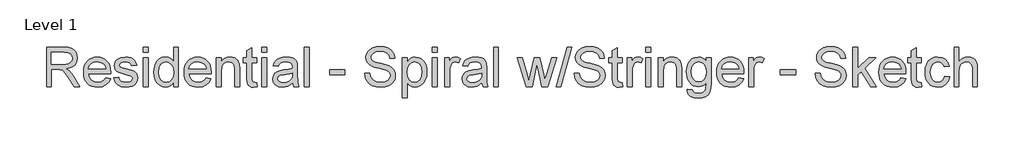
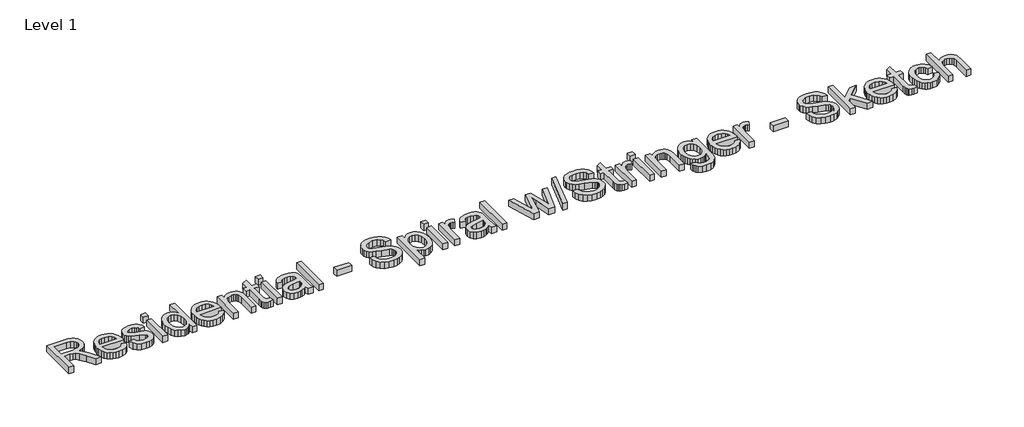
# One storey, part 9 of 26: 1 proxy.
"""IFC4 building model written with IfcOpenShell, lengths in millimetres."""

from ifc_helpers import new_model, si_unit, origin, origin_with_axes, place, context, project, spatial, polyline, outline, extrude, element, save

model = new_model("IFC4")

# Units and contexts
model_context = context("Model", 3, world=origin())
ifc_project = project(units=[si_unit("LENGTHUNIT", "METRE", prefix="MILLI")], contexts=[model_context])

# Site, building, storey
site = spatial("IfcSite", under=ifc_project)
building = spatial("IfcBuilding", under=site)
storey = spatial("IfcBuildingStorey", under=building, Name="Level 1", Elevation=0.0)

# Proxy
placement = place(None, origin())
element("IfcBuildingElementProxy", 1, Name="12\" Arial", ObjectType="12\" Arial", at=placement, inside=storey, context=model_context, shape_type="SweptSolid", body=[
    extrude(outline(polyline([(-4715.4981187, -14907.1232123), (-4715.4981187, -14607.012443), (-4586.1779264, -14607.012443), (-4551.420835, -14609.0365055), (-4526.1337918, -14615.108693), (-4507.6516283, -14626.3188854), (-4493.3091764, -14643.7569623), (-4484.1047293, -14665.380544), (-4481.0365802, -14689.1472507), (-4486.1196331, -14718.7113854), (-4501.3687918, -14743.219943), (-4512.9201439, -14753.2074551), (-4527.2419889, -14761.1892219), (-4564.1971571, -14771.13552), (-4542.875811, -14787.1814815), (-4512.4690802, -14825.7943661), (-4462.4261956, -14907.1232123), (-4506.0213879, -14907.1232123), (-4545.0738879, -14844.9176354), (-4573.2825418, -14803.7403277), (-4593.1018687, -14784.2873469), (-4610.9429264, -14777.1435969), (-4632.7038879, -14775.8247507), (-4677.9842725, -14775.8247507), (-4677.9842725, -14907.1232123), (-4715.4981187, -14907.1232123)]), holes=[polyline([(-4677.9842725, -14738.3109046), (-4594.0177341, -14738.3109046), (-4569.9029985, -14736.9828998), (-4551.1918687, -14732.9988854), (-4537.1058591, -14726.0932604), (-4526.8664841, -14716.0004238), (-4520.6294408, -14703.7919382), (-4518.5504264, -14690.5393661), (-4522.5161235, -14672.2403757), (-4534.4132148, -14657.494943), (-4554.8828062, -14647.7684527), (-4584.5660033, -14644.5262892), (-4677.9842725, -14644.5262892), (-4677.9842725, -14738.3109046)])]), origin_with_axes(), (0.0, 0.0, 1.0), 50.8),
    extrude(outline(polyline([(-4265.7715802, -14841.4739815), (-4228.9904264, -14846.1632123), (-4242.2429985, -14873.8772988), (-4263.3903302, -14894.5941738), (-4291.9561716, -14907.5078757), (-4327.4642725, -14911.812443), (-4350.7409913, -14909.955526), (-4371.4807629, -14904.3847748), (-4389.6835874, -14895.1001894), (-4405.3494648, -14882.10177), (-4417.9471932, -14865.7512832), (-4426.9455706, -14846.4104959), (-4432.344597, -14824.0794082), (-4434.1442725, -14798.75802), (-4432.3262797, -14772.5780079), (-4426.8723014, -14749.5027796), (-4417.7823374, -14729.5323349), (-4405.0563879, -14712.6666738), (-4389.4317244, -14699.2675632), (-4371.6456187, -14689.69677), (-4351.6980706, -14683.954294), (-4329.5890802, -14682.0401354), (-4308.1921752, -14683.9497147), (-4288.8422293, -14689.6784527), (-4271.5392425, -14699.2263493), (-4256.2832148, -14712.5934046), (-4243.8297353, -14729.422431), (-4234.9343927, -14749.3562411), (-4229.5971872, -14772.3948349), (-4227.8181187, -14798.5382123), (-4228.0379264, -14808.6493661), (-4396.6304264, -14808.6493661), (-4390.1369408, -14836.7297988), (-4375.0526379, -14857.3734046), (-4353.2825177, -14870.0672988), (-4326.7315802, -14874.2985969), (-4306.7657148, -14872.338645), (-4289.9504264, -14866.4587892), (-4276.2857148, -14856.2926834), (-4265.7715802, -14841.4739815)]), holes=[polyline([(-4396.6304264, -14771.13552), (-4265.3319648, -14771.13552), (-4270.4058591, -14751.316193), (-4280.3521571, -14737.1385969), (-4302.2230225, -14723.9501354), (-4329.7356187, -14719.5539815), (-4355.0226619, -14723.0617459), (-4375.9318687, -14733.5850392), (-4390.4666523, -14749.9881882), (-4396.6304264, -14771.13552)])]), origin_with_axes(), (0.0, 0.0, 1.0), 50.8),
    extrude(outline(polyline([(-4204.3719648, -14841.4739815), (-4166.8581187, -14836.7847507), (-4160.9416283, -14852.8307123), (-4149.493311, -14864.6270584), (-4132.4398975, -14871.8807123), (-4109.7081187, -14874.2985969), (-4087.2510994, -14872.0822027), (-4071.4615802, -14865.43302), (-4062.1197533, -14855.7981161), (-4059.005811, -14844.6245584), (-4062.1380706, -14835.0629238), (-4071.5348494, -14827.7726354), (-4110.1477341, -14817.0753277), (-4166.638311, -14798.7213854), (-4180.9349696, -14789.4986209), (-4191.2934071, -14777.2901354), (-4197.5854023, -14762.8744142), (-4199.6827341, -14747.029943), (-4197.9975418, -14732.4951594), (-4192.9419648, -14719.0777315), (-4184.973936, -14707.3088613), (-4174.5513879, -14697.7197507), (-4150.7022533, -14686.6194623), (-4118.4271571, -14682.0401354), (-4094.010186, -14683.8810248), (-4072.7804264, -14689.403693), (-4055.7086956, -14698.0677796), (-4043.765811, -14709.3329238), (-4035.8527341, -14724.0325632), (-4030.8704264, -14743.0001354), (-4068.3842725, -14747.6893661), (-4073.1192966, -14735.8838613), (-4082.4885994, -14726.9908084), (-4096.5837677, -14721.4131882), (-4115.4963879, -14719.5539815), (-4137.0375418, -14721.3307604), (-4151.398311, -14726.6610969), (-4159.4762437, -14734.3543661), (-4162.1688879, -14743.219943), (-4157.6994648, -14754.1370584), (-4143.7050418, -14762.4164815), (-4111.393311, -14770.4028277), (-4056.3314841, -14788.0607123), (-4041.7875418, -14796.5049911), (-4030.7605225, -14808.0632123), (-4023.8091043, -14822.7720104), (-4021.4919648, -14840.66802), (-4024.212085, -14859.1685007), (-4032.3724456, -14876.569943), (-4045.6616523, -14891.5077075), (-4063.768311, -14902.6171546), (-4085.6391764, -14909.5136209), (-4110.2210033, -14911.812443), (-4148.0462437, -14907.3796546), (-4175.6504264, -14894.0812892), (-4194.0776379, -14872.0638854), (-4204.3719648, -14841.4739815)])), origin_with_axes(), (0.0, 0.0, 1.0), 50.8),
    extrude(outline(polyline([(-3979.2888879, -14907.1232123), (-3979.2888879, -14686.7293661), (-3941.7750418, -14686.7293661), (-3941.7750418, -14907.1232123), (-3979.2888879, -14907.1232123)])), origin_with_axes(), (0.0, 0.0, 1.0), 50.8),
    extrude(outline(polyline([(-3979.2888879, -14644.5262892), (-3979.2888879, -14607.012443), (-3941.7750418, -14607.012443), (-3941.7750418, -14644.5262892), (-3979.2888879, -14644.5262892)])), origin_with_axes(), (0.0, 0.0, 1.0), 50.8),
    extrude(outline(polyline([(-3749.5165802, -14907.1232123), (-3749.5165802, -14871.7341738), (-3760.7405105, -14889.2684166), (-3774.3365321, -14901.7928757), (-3790.3046451, -14909.3075512), (-3808.6448494, -14911.812443), (-3832.8969648, -14908.1856161), (-3855.0975418, -14897.3051354), (-3873.8910994, -14879.931169), (-3887.9221571, -14856.8238854), (-3896.6595129, -14828.9174671), (-3899.5719648, -14797.1460969), (-3896.8884793, -14765.7685488), (-3888.8380225, -14737.4316738), (-3875.4297533, -14713.747395), (-3856.6728302, -14696.3276354), (-3833.9868446, -14685.6120104), (-3808.7913879, -14682.0401354), (-3790.4374456, -14684.5953998), (-3774.208311, -14692.261193), (-3760.4520129, -14704.0117459), (-3749.5165802, -14718.8212892), (-3749.5165802, -14607.012443), (-3712.0027341, -14607.012443), (-3712.0027341, -14907.1232123), (-3749.5165802, -14907.1232123)]), holes=[polyline([(-3862.0581187, -14796.9995584), (-3857.8268206, -14830.9323709), (-3845.1329264, -14855.0654238), (-3826.6873975, -14869.4903036), (-3805.2011956, -14874.2985969), (-3783.7241523, -14869.7101113), (-3765.7457148, -14855.9446546), (-3753.5738639, -14832.7457844), (-3749.5165802, -14799.8570584), (-3753.6471331, -14763.9001834), (-3766.0387918, -14738.9703277), (-3784.4751619, -14724.408068), (-3806.7398494, -14719.5539815), (-3828.4458591, -14724.2157363), (-3846.2319648, -14738.2010007), (-3858.1015802, -14762.2241498), (-3862.0581187, -14796.9995584)])]), origin_with_axes(), (0.0, 0.0, 1.0), 50.8),
    extrude(outline(polyline([(-3501.4269648, -14841.4739815), (-3464.645811, -14846.1632123), (-3477.8983831, -14873.8772988), (-3499.0457148, -14894.5941738), (-3527.6115562, -14907.5078757), (-3563.1196571, -14911.812443), (-3586.3963759, -14909.955526), (-3607.1361475, -14904.3847748), (-3625.338972, -14895.1001894), (-3641.0048494, -14882.10177), (-3653.6025778, -14865.7512832), (-3662.6009552, -14846.4104959), (-3667.9999817, -14824.0794082), (-3669.7996571, -14798.75802), (-3667.9816643, -14772.5780079), (-3662.527686, -14749.5027796), (-3653.437722, -14729.5323349), (-3640.7117725, -14712.6666738), (-3625.0871091, -14699.2675632), (-3607.3010033, -14689.69677), (-3587.3534552, -14683.954294), (-3565.2444648, -14682.0401354), (-3543.8475598, -14683.9497147), (-3524.4976139, -14689.6784527), (-3507.1946271, -14699.2263493), (-3491.9385994, -14712.5934046), (-3479.4851199, -14729.422431), (-3470.5897773, -14749.3562411), (-3465.2525718, -14772.3948349), (-3463.4735033, -14798.5382123), (-3463.693311, -14808.6493661), (-3632.285811, -14808.6493661), (-3625.7923254, -14836.7297988), (-3610.7080225, -14857.3734046), (-3588.9379023, -14870.0672988), (-3562.3869648, -14874.2985969), (-3542.4210994, -14872.338645), (-3525.605811, -14866.4587892), (-3511.9410994, -14856.2926834), (-3501.4269648, -14841.4739815)]), holes=[polyline([(-3632.285811, -14771.13552), (-3500.9873494, -14771.13552), (-3506.0612437, -14751.316193), (-3516.0075418, -14737.1385969), (-3537.8784071, -14723.9501354), (-3565.3910033, -14719.5539815), (-3590.6780466, -14723.0617459), (-3611.5872533, -14733.5850392), (-3626.1220369, -14749.9881882), (-3632.285811, -14771.13552)])]), origin_with_axes(), (0.0, 0.0, 1.0), 50.8),
    extrude(outline(polyline([(-3425.9596571, -14907.1232123), (-3425.9596571, -14686.7293661), (-3388.445811, -14686.7293661), (-3388.445811, -14717.502443), (-3375.4130466, -14701.9876834), (-3359.7609071, -14690.9057123), (-3341.4893927, -14684.2565296), (-3320.5985033, -14682.0401354), (-3302.1071812, -14683.8260729), (-3285.1728302, -14689.1838854), (-3271.050186, -14697.4449911), (-3260.9939841, -14707.9408084), (-3249.7471571, -14735.5266738), (-3247.7688879, -14771.794943), (-3247.7688879, -14907.1232123), (-3285.2827341, -14907.1232123), (-3285.2827341, -14776.85052), (-3289.6056187, -14743.6595584), (-3295.5862196, -14733.7773709), (-3304.8822533, -14726.1115777), (-3316.7976619, -14721.1933805), (-3330.6363879, -14719.5539815), (-3352.6079985, -14723.2357604), (-3371.3374456, -14734.2810969), (-3378.8223555, -14743.2977916), (-3384.1687196, -14755.6207604), (-3388.445811, -14790.18552), (-3388.445811, -14907.1232123), (-3425.9596571, -14907.1232123)])), origin_with_axes(), (0.0, 0.0, 1.0), 50.8),
    extrude(outline(polyline([(-3116.4704264, -14875.8372507), (-3111.7811956, -14908.2222507), (-3139.843311, -14911.812443), (-3157.8492244, -14910.2554719), (-3171.275811, -14905.5845584), (-3180.7641764, -14898.3858565), (-3186.9554264, -14889.24552), (-3190.3624456, -14873.5475873), (-3191.4981187, -14846.6760969), (-3191.4981187, -14724.2432123), (-3219.6335033, -14724.2432123), (-3219.6335033, -14686.7293661), (-3191.4981187, -14686.7293661), (-3191.4981187, -14633.1695584), (-3153.9842725, -14611.11552), (-3153.9842725, -14686.7293661), (-3116.4704264, -14686.7293661), (-3116.4704264, -14724.2432123), (-3153.9842725, -14724.2432123), (-3153.9842725, -14845.5770584), (-3152.0060033, -14864.9201354), (-3145.5949456, -14871.7708084), (-3132.8094648, -14874.2985969), (-3116.4704264, -14875.8372507)])), origin_with_axes(), (0.0, 0.0, 1.0), 50.8),
    extrude(outline(polyline([(-3078.9565802, -14907.1232123), (-3078.9565802, -14686.7293661), (-3041.4427341, -14686.7293661), (-3041.4427341, -14907.1232123), (-3078.9565802, -14907.1232123)])), origin_with_axes(), (0.0, 0.0, 1.0), 50.8),
    extrude(outline(polyline([(-3078.9565802, -14644.5262892), (-3078.9565802, -14607.012443), (-3041.4427341, -14607.012443), (-3041.4427341, -14644.5262892), (-3078.9565802, -14644.5262892)])), origin_with_axes(), (0.0, 0.0, 1.0), 50.8),
    extrude(outline(polyline([(-2844.4950418, -14878.9878277), (-2862.4185273, -14894.3560488), (-2880.8732148, -14904.4122507), (-2900.2804023, -14909.962395), (-2921.0613879, -14911.812443), (-2952.41146, -14907.3613373), (-2975.537061, -14894.00802), (-2989.797085, -14873.7307604), (-2994.5504264, -14848.5078277), (-2992.7553302, -14832.9564334), (-2987.3700418, -14818.8337892), (-2979.0631427, -14806.7443661), (-2968.5032148, -14797.2926354), (-2942.2361956, -14784.9834046), (-2909.7779264, -14779.3416738), (-2871.4214841, -14773.4068661), (-2844.7148494, -14766.4462892), (-2844.4950418, -14758.0935969), (-2847.0777821, -14741.3515777), (-2854.8260033, -14730.3978277), (-2872.1541764, -14722.264943), (-2896.2963879, -14719.5539815), (-2918.6435033, -14721.3582363), (-2934.2498494, -14726.7710007), (-2944.8922052, -14736.7814094), (-2952.3473494, -14752.3785969), (-2989.8611956, -14747.6893661), (-2983.3493927, -14727.1739815), (-2973.632061, -14711.0547507), (-2959.8024937, -14698.7272027), (-2940.9539841, -14689.5868661), (-2917.9016523, -14683.926818), (-2891.4606187, -14682.0401354), (-2866.1003062, -14683.7070104), (-2845.997061, -14688.7076354), (-2830.8394889, -14696.2268902), (-2820.3161956, -14705.4496546), (-2813.3373014, -14716.8521786), (-2808.8129264, -14730.9107123), (-2806.9811956, -14763.7353277), (-2806.9811956, -14810.4078277), (-2805.0761956, -14875.5808084), (-2797.6027341, -14907.1232123), (-2835.1165802, -14907.1232123), (-2844.4950418, -14878.9878277)]), holes=[polyline([(-2844.4950418, -14803.9601354), (-2905.0154264, -14815.4634046), (-2937.2905225, -14821.5447507), (-2951.9077341, -14831.4360969), (-2957.0365802, -14845.8701354), (-2954.2431908, -14857.0253757), (-2945.8630225, -14866.1657123), (-2932.0792485, -14872.2653757), (-2913.0750418, -14874.2985969), (-2892.9260033, -14872.0547267), (-2875.1215802, -14865.3231161), (-2860.6875418, -14855.404294), (-2850.6496571, -14843.5987892), (-2846.1985514, -14831.4360969), (-2844.7148494, -14814.5841738), (-2844.4950418, -14803.9601354)])]), origin_with_axes(), (0.0, 0.0, 1.0), 50.8),
    extrude(outline(polyline([(-2755.3996571, -14907.1232123), (-2755.3996571, -14607.012443), (-2717.885811, -14607.012443), (-2717.885811, -14907.1232123), (-2755.3996571, -14907.1232123)])), origin_with_axes(), (0.0, 0.0, 1.0), 50.8),
    extrude(outline(polyline([(-2563.1411956, -14818.0278277), (-2563.1411956, -14780.5139815), (-2445.9104264, -14780.5139815), (-2445.9104264, -14818.0278277), (-2563.1411956, -14818.0278277)])), origin_with_axes(), (0.0, 0.0, 1.0), 50.8),
    extrude(outline(polyline([(-2295.8550418, -14803.9601354), (-2258.3411956, -14803.9601354), (-2254.0366283, -14824.7777555), (-2246.2517725, -14841.5106161), (-2234.1073975, -14854.7906642), (-2216.7242725, -14865.2498469), (-2195.4761956, -14872.0364094), (-2171.7369648, -14874.2985969), (-2150.8369168, -14872.5859286), (-2132.5379264, -14867.4479238), (-2117.7100658, -14859.3150392), (-2107.2234071, -14848.6177315), (-2100.9863639, -14836.3359767), (-2098.9073494, -14823.4497507), (-2100.4643206, -14810.8932363), (-2105.1352341, -14800.0402315), (-2114.6235994, -14790.7808325), (-2130.6329264, -14783.0051354), (-2185.2551379, -14768.6810007), (-2221.1112677, -14759.201794), (-2244.0536956, -14750.18052), (-2262.7281908, -14737.559895), (-2275.9624456, -14722.264943), (-2283.8480466, -14704.6253757), (-2286.4765802, -14684.9709046), (-2283.2252581, -14662.999294), (-2273.4712918, -14642.5113854), (-2257.4711235, -14625.1465777), (-2235.4811956, -14612.54427), (-2209.0859552, -14604.8784767), (-2179.8698494, -14602.3232123), (-2148.2175418, -14604.9975392), (-2120.5217725, -14613.02052), (-2097.7716764, -14626.2272988), (-2080.9563879, -14644.45302), (-2070.3140321, -14666.5620104), (-2066.0827341, -14691.4185969), (-2103.5965802, -14691.4185969), (-2110.4838879, -14669.0348469), (-2124.8446571, -14652.8789815), (-2147.2833591, -14643.0975392), (-2178.4044648, -14639.8370584), (-2210.2582629, -14643.0609046), (-2232.110811, -14652.732443), (-2244.7497533, -14666.9649911), (-2248.9627341, -14683.8718661), (-2245.9770129, -14698.2875873), (-2237.0198494, -14709.882443), (-2215.8450418, -14720.2500392), (-2175.7667725, -14730.837443), (-2134.4062918, -14740.893645), (-2109.3848494, -14749.6676354), (-2087.9993927, -14763.277395), (-2073.0799456, -14780.0743661), (-2064.3151139, -14799.8753757), (-2061.3935033, -14822.4972507), (-2064.7547293, -14845.6228517), (-2074.8384071, -14867.3746546), (-2091.2323975, -14886.094943), (-2113.524561, -14900.1260007), (-2140.3319408, -14908.8908325), (-2170.2715802, -14911.812443), (-2207.0252581, -14908.6618661), (-2237.2762918, -14899.2101354), (-2261.37271, -14883.4206161), (-2279.6625418, -14861.2566738), (-2291.403936, -14834.2569623), (-2295.8550418, -14803.9601354)])), origin_with_axes(), (0.0, 0.0, 1.0), 50.8),
    extrude(outline(polyline([(-2009.8119648, -14991.5293661), (-2009.8119648, -14686.7293661), (-1972.2981187, -14686.7293661), (-1972.2981187, -14723.51052), (-1960.0621571, -14705.3672267), (-1946.360811, -14692.4077315), (-1930.3881187, -14684.6320344), (-1911.3381187, -14682.0401354), (-1885.9686475, -14685.6669623), (-1863.7863879, -14696.547443), (-1845.7255225, -14714.0221546), (-1832.7202341, -14737.4316738), (-1824.8621091, -14765.0724911), (-1822.2427341, -14795.2410969), (-1825.2009793, -14827.3238613), (-1834.0757148, -14856.0179238), (-1848.5830225, -14879.8670584), (-1868.4389841, -14897.4150392), (-1891.564585, -14908.2130921), (-1915.880811, -14911.812443), (-1933.1265562, -14909.4037171), (-1948.5222533, -14902.1775392), (-1961.7015562, -14891.2695825), (-1972.2981187, -14877.81552), (-1972.2981187, -14991.5293661), (-2009.8119648, -14991.5293661)]), holes=[polyline([(-1972.2981187, -14798.6847507), (-1968.240835, -14832.3153277), (-1956.0689841, -14855.8347507), (-1938.1088639, -14869.6826354), (-1916.6867725, -14874.2985969), (-1894.9166523, -14869.5177796), (-1876.4985994, -14855.1753277), (-1863.942085, -14830.7949911), (-1859.7565802, -14795.90052), (-1863.8413398, -14762.4531161), (-1876.0956187, -14738.6039815), (-1894.0282629, -14724.3164815), (-1915.1481187, -14719.5539815), (-1936.3504023, -14724.6187171), (-1954.9699456, -14739.8129238), (-1967.9660754, -14764.6603517), (-1972.2981187, -14798.6847507)])]), origin_with_axes(), (0.0, 0.0, 1.0), 50.8),
    extrude(outline(polyline([(-1780.0396571, -14907.1232123), (-1780.0396571, -14686.7293661), (-1742.525811, -14686.7293661), (-1742.525811, -14907.1232123), (-1780.0396571, -14907.1232123)])), origin_with_axes(), (0.0, 0.0, 1.0), 50.8),
    extrude(outline(polyline([(-1780.0396571, -14644.5262892), (-1780.0396571, -14607.012443), (-1742.525811, -14607.012443), (-1742.525811, -14644.5262892), (-1780.0396571, -14644.5262892)])), origin_with_axes(), (0.0, 0.0, 1.0), 50.8),
    extrude(outline(polyline([(-1686.2550418, -14907.1232123), (-1686.2550418, -14686.7293661), (-1653.4304264, -14686.7293661), (-1653.4304264, -14719.3341738), (-1641.3043687, -14700.4307123), (-1630.130811, -14689.2937892), (-1618.9206187, -14683.8535488), (-1606.6846571, -14682.0401354), (-1588.0010033, -14684.93427), (-1569.0242725, -14693.6166738), (-1581.553311, -14727.2472507), (-1594.7417725, -14721.4772988), (-1607.9302341, -14719.5539815), (-1619.1312677, -14721.4040296), (-1629.1416764, -14726.9541738), (-1637.2287677, -14735.7831161), (-1642.6598494, -14747.4695584), (-1647.2208591, -14768.4245584), (-1648.7411956, -14791.2845584), (-1648.7411956, -14907.1232123), (-1686.2550418, -14907.1232123)])), origin_with_axes(), (0.0, 0.0, 1.0), 50.8),
    extrude(outline(polyline([(-1404.9011956, -14878.9878277), (-1422.8246812, -14894.3560488), (-1441.2793687, -14904.4122507), (-1460.6865562, -14909.962395), (-1481.4675418, -14911.812443), (-1512.8176139, -14907.3613373), (-1535.9432148, -14894.00802), (-1550.2032389, -14873.7307604), (-1554.9565802, -14848.5078277), (-1553.1614841, -14832.9564334), (-1547.7761956, -14818.8337892), (-1539.4692966, -14806.7443661), (-1528.9093687, -14797.2926354), (-1502.6423494, -14784.9834046), (-1470.1840802, -14779.3416738), (-1431.8276379, -14773.4068661), (-1405.1210033, -14766.4462892), (-1404.9011956, -14758.0935969), (-1407.483936, -14741.3515777), (-1415.2321571, -14730.3978277), (-1432.5603302, -14722.264943), (-1456.7025418, -14719.5539815), (-1479.0496571, -14721.3582363), (-1494.6560033, -14726.7710007), (-1505.2983591, -14736.7814094), (-1512.7535033, -14752.3785969), (-1550.2673494, -14747.6893661), (-1543.7555466, -14727.1739815), (-1534.0382148, -14711.0547507), (-1520.2086475, -14698.7272027), (-1501.3601379, -14689.5868661), (-1478.3078062, -14683.926818), (-1451.8667725, -14682.0401354), (-1426.50646, -14683.7070104), (-1406.4032148, -14688.7076354), (-1391.2456427, -14696.2268902), (-1380.7223494, -14705.4496546), (-1373.7434552, -14716.8521786), (-1369.2190802, -14730.9107123), (-1367.3873494, -14763.7353277), (-1367.3873494, -14810.4078277), (-1365.4823494, -14875.5808084), (-1358.0088879, -14907.1232123), (-1395.5227341, -14907.1232123), (-1404.9011956, -14878.9878277)]), holes=[polyline([(-1404.9011956, -14803.9601354), (-1465.4215802, -14815.4634046), (-1497.6966764, -14821.5447507), (-1512.3138879, -14831.4360969), (-1517.4427341, -14845.8701354), (-1514.6493446, -14857.0253757), (-1506.2691764, -14866.1657123), (-1492.4854023, -14872.2653757), (-1473.4811956, -14874.2985969), (-1453.3321571, -14872.0547267), (-1435.5277341, -14865.3231161), (-1421.0936956, -14855.404294), (-1411.055811, -14843.5987892), (-1406.6047052, -14831.4360969), (-1405.1210033, -14814.5841738), (-1404.9011956, -14803.9601354)])]), origin_with_axes(), (0.0, 0.0, 1.0), 50.8),
    extrude(outline(polyline([(-1315.805811, -14907.1232123), (-1315.805811, -14607.012443), (-1278.2919648, -14607.012443), (-1278.2919648, -14907.1232123), (-1315.805811, -14907.1232123)])), origin_with_axes(), (0.0, 0.0, 1.0), 50.8),
    extrude(outline(polyline([(-1068.2290802, -14907.1232123), (-1135.2704264, -14686.7293661), (-1096.2911956, -14686.7293661), (-1058.2644648, -14815.3168661), (-1046.9077341, -14861.2566738), (-1037.6025418, -14817.0020584), (-1007.3423494, -14686.7293661), (-962.6481187, -14686.7293661), (-932.5344648, -14816.6357123), (-924.2550418, -14856.7139815), (-912.3854264, -14814.4376354), (-874.2854264, -14686.7293661), (-835.1596571, -14686.7293661), (-902.7138879, -14907.1232123), (-948.0675418, -14907.1232123), (-976.8623494, -14777.8762892), (-985.2150418, -14737.5782123), (-1022.3625418, -14907.1232123), (-1068.2290802, -14907.1232123)])), origin_with_axes(), (0.0, 0.0, 1.0), 50.8),
    extrude(outline(polyline([(-837.5042725, -14907.1232123), (-753.0981187, -14607.012443), (-719.2477341, -14607.012443), (-803.6538879, -14907.1232123), (-837.5042725, -14907.1232123)])), origin_with_axes(), (0.0, 0.0, 1.0), 50.8),
    extrude(outline(polyline([(-701.5165802, -14803.9601354), (-664.0027341, -14803.9601354), (-659.6981668, -14824.7777555), (-651.913311, -14841.5106161), (-639.768936, -14854.7906642), (-622.385811, -14865.2498469), (-601.1377341, -14872.0364094), (-577.3985033, -14874.2985969), (-556.4984552, -14872.5859286), (-538.1994648, -14867.4479238), (-523.3716043, -14859.3150392), (-512.8849456, -14848.6177315), (-506.6479023, -14836.3359767), (-504.5688879, -14823.4497507), (-506.1258591, -14810.8932363), (-510.7967725, -14800.0402315), (-520.2851379, -14790.7808325), (-536.2944648, -14783.0051354), (-590.9166764, -14768.6810007), (-626.7728062, -14759.201794), (-649.7152341, -14750.18052), (-668.3897293, -14737.559895), (-681.6239841, -14722.264943), (-689.509585, -14704.6253757), (-692.1381187, -14684.9709046), (-688.8867966, -14662.999294), (-679.1328302, -14642.5113854), (-663.1326619, -14625.1465777), (-641.1427341, -14612.54427), (-614.7474937, -14604.8784767), (-585.5313879, -14602.3232123), (-553.8790802, -14604.9975392), (-526.183311, -14613.02052), (-503.4332148, -14626.2272988), (-486.6179264, -14644.45302), (-475.9755706, -14666.5620104), (-471.7442725, -14691.4185969), (-509.2581187, -14691.4185969), (-516.1454264, -14669.0348469), (-530.5061956, -14652.8789815), (-552.9448975, -14643.0975392), (-584.0660033, -14639.8370584), (-615.9198014, -14643.0609046), (-637.7723494, -14652.732443), (-650.4112918, -14666.9649911), (-654.6242725, -14683.8718661), (-651.6385514, -14698.2875873), (-642.6813879, -14709.882443), (-621.5065802, -14720.2500392), (-581.428311, -14730.837443), (-540.0678302, -14740.893645), (-515.0463879, -14749.6676354), (-493.6609312, -14763.277395), (-478.7414841, -14780.0743661), (-469.9766523, -14799.8753757), (-467.0550418, -14822.4972507), (-470.4162677, -14845.6228517), (-480.4999456, -14867.3746546), (-496.893936, -14886.094943), (-519.1860994, -14900.1260007), (-545.9934793, -14908.8908325), (-575.9331187, -14911.812443), (-612.6867966, -14908.6618661), (-642.9378302, -14899.2101354), (-667.0342485, -14883.4206161), (-685.3240802, -14861.2566738), (-697.0654744, -14834.2569623), (-701.5165802, -14803.9601354)])), origin_with_axes(), (0.0, 0.0, 1.0), 50.8),
    extrude(outline(polyline([(-335.7565802, -14875.8372507), (-331.0673494, -14908.2222507), (-359.1294648, -14911.812443), (-377.1353783, -14910.2554719), (-390.5619648, -14905.5845584), (-400.0503302, -14898.3858565), (-406.2415802, -14889.24552), (-409.6485994, -14873.5475873), (-410.7842725, -14846.6760969), (-410.7842725, -14724.2432123), (-438.9196571, -14724.2432123), (-438.9196571, -14686.7293661), (-410.7842725, -14686.7293661), (-410.7842725, -14633.1695584), (-373.2704264, -14611.11552), (-373.2704264, -14686.7293661), (-335.7565802, -14686.7293661), (-335.7565802, -14724.2432123), (-373.2704264, -14724.2432123), (-373.2704264, -14845.5770584), (-371.2921571, -14864.9201354), (-364.8810994, -14871.7708084), (-352.0956187, -14874.2985969), (-335.7565802, -14875.8372507)])), origin_with_axes(), (0.0, 0.0, 1.0), 50.8),
    extrude(outline(polyline([(-298.2427341, -14907.1232123), (-298.2427341, -14686.7293661), (-265.4181187, -14686.7293661), (-265.4181187, -14719.3341738), (-253.292061, -14700.4307123), (-242.1185033, -14689.2937892), (-230.908311, -14683.8535488), (-218.6723494, -14682.0401354), (-199.9886956, -14684.93427), (-181.0119648, -14693.6166738), (-193.5410033, -14727.2472507), (-206.7294648, -14721.4772988), (-219.9179264, -14719.5539815), (-231.11896, -14721.4040296), (-241.1293687, -14726.9541738), (-249.21646, -14735.7831161), (-254.6475418, -14747.4695584), (-259.2085514, -14768.4245584), (-260.7288879, -14791.2845584), (-260.7288879, -14907.1232123), (-298.2427341, -14907.1232123)])), origin_with_axes(), (0.0, 0.0, 1.0), 50.8),
    extrude(outline(polyline([(-157.565811, -14907.1232123), (-157.565811, -14686.7293661), (-120.0519648, -14686.7293661), (-120.0519648, -14907.1232123), (-157.565811, -14907.1232123)])), origin_with_axes(), (0.0, 0.0, 1.0), 50.8),
    extrude(outline(polyline([(-157.565811, -14644.5262892), (-157.565811, -14607.012443), (-120.0519648, -14607.012443), (-120.0519648, -14644.5262892), (-157.565811, -14644.5262892)])), origin_with_axes(), (0.0, 0.0, 1.0), 50.8),
    extrude(outline(polyline([(-63.7811956, -14907.1232123), (-63.7811956, -14686.7293661), (-26.2673494, -14686.7293661), (-26.2673494, -14717.502443), (-13.234585, -14701.9876834), (2.4175544, -14690.9057123), (20.6890688, -14684.2565296), (41.5799582, -14682.0401354), (60.0712804, -14683.8260729), (77.0056313, -14689.1838854), (91.1282756, -14697.4449911), (101.1844775, -14707.9408084), (112.4313044, -14735.5266738), (114.4095736, -14771.794943), (114.4095736, -14907.1232123), (76.8957275, -14907.1232123), (76.8957275, -14776.85052), (72.5728429, -14743.6595584), (66.5922419, -14733.7773709), (57.2962082, -14726.1115777), (45.3807996, -14721.1933805), (31.5420736, -14719.5539815), (9.5704631, -14723.2357604), (-9.1589841, -14734.2810969), (-16.6438939, -14743.2977916), (-21.9902581, -14755.6207604), (-26.2673494, -14790.18552), (-26.2673494, -14907.1232123), (-63.7811956, -14907.1232123)])), origin_with_axes(), (0.0, 0.0, 1.0), 50.8),
    extrude(outline(polyline([(156.6126506, -14925.8801354), (194.1264967, -14930.5693661), (198.2662082, -14942.292443), (206.289189, -14950.3520584), (222.0603909, -14956.6165777), (242.7039967, -14958.7047507), (264.7214006, -14956.341818), (281.0970736, -14949.25302), (292.4538044, -14937.8962892), (299.4143813, -14922.7295584), (301.9788044, -14878.9878277), (289.4955592, -14891.2970584), (275.5652467, -14900.0893661), (260.1878669, -14905.3647507), (243.3634198, -14907.1232123), (222.7953729, -14905.0762531), (204.6864246, -14898.9353757), (189.0365748, -14888.7005801), (175.8458236, -14874.3718661), (165.379772, -14857.1810729), (157.9040207, -14838.3600392), (153.41857, -14817.9087652), (151.9234198, -14795.8272507), (154.6069054, -14765.5395825), (162.6573621, -14737.6881161), (175.7908717, -14714.0862652), (193.7235159, -14696.547443), (215.841665, -14685.6669623), (241.531689, -14682.0401354), (259.0750905, -14684.0916738), (274.9974102, -14690.2462892), (289.2986482, -14700.5039815), (301.9788044, -14714.8647507), (301.9788044, -14686.7293661), (339.4926506, -14686.7293661), (339.4926506, -14877.0095584), (336.9282275, -14920.9436209), (329.2349582, -14949.8758084), (315.9823861, -14969.0631882), (296.7400544, -14983.7628277), (271.9292611, -14993.1046546), (241.9713044, -14996.2185969), (207.0676746, -14991.8316017), (179.5825544, -14978.6706161), (169.2309859, -14968.7907183), (161.9521457, -14956.6990055), (157.746034, -14942.3954779), (156.6126506, -14925.8801354)]), holes=[polyline([(189.4372659, -14793.2628277), (193.4395977, -14827.6718902), (205.4465929, -14851.328693), (223.4982996, -14865.0391979), (245.6347659, -14869.6093661), (267.6063765, -14865.0666738), (285.7496698, -14851.4385969), (297.9215207, -14828.0840296), (301.9788044, -14794.3618661), (297.8024582, -14761.8394863), (285.2734198, -14738.4208084), (266.8645256, -14724.2706882), (245.0486121, -14719.5539815), (223.6265207, -14724.197419), (205.6664006, -14738.1277315), (193.4945496, -14761.1983805), (189.4372659, -14793.2628277)])]), origin_with_axes(), (0.0, 0.0, 1.0), 50.8),
    extrude(outline(polyline([(550.0684198, -14841.4739815), (586.8495736, -14846.1632123), (573.5970015, -14873.8772988), (552.4496698, -14894.5941738), (523.8838284, -14907.5078757), (488.3757275, -14911.812443), (465.0990087, -14909.955526), (444.3592371, -14904.3847748), (426.1564126, -14895.1001894), (410.4905352, -14882.10177), (397.8928068, -14865.7512832), (388.8944294, -14846.4104959), (383.495403, -14824.0794082), (381.6957275, -14798.75802), (383.5137203, -14772.5780079), (388.9676986, -14749.5027796), (398.0576626, -14729.5323349), (410.7836121, -14712.6666738), (426.4082756, -14699.2675632), (444.1943813, -14689.69677), (464.1419294, -14683.954294), (486.2509198, -14682.0401354), (507.6478248, -14683.9497147), (526.9977707, -14689.6784527), (544.3007575, -14699.2263493), (559.5567852, -14712.5934046), (572.0102647, -14729.422431), (580.9056073, -14749.3562411), (586.2428128, -14772.3948349), (588.0218813, -14798.5382123), (587.8020736, -14808.6493661), (419.2095736, -14808.6493661), (425.7030592, -14836.7297988), (440.7873621, -14857.3734046), (462.5574823, -14870.0672988), (489.1084198, -14874.2985969), (509.0742852, -14872.338645), (525.8895736, -14866.4587892), (539.5542852, -14856.2926834), (550.0684198, -14841.4739815)]), holes=[polyline([(419.2095736, -14771.13552), (550.5080352, -14771.13552), (545.4341409, -14751.316193), (535.4878429, -14737.1385969), (513.6169775, -14723.9501354), (486.1043813, -14719.5539815), (460.8173381, -14723.0617459), (439.9081313, -14733.5850392), (425.3733477, -14749.9881882), (419.2095736, -14771.13552)])]), origin_with_axes(), (0.0, 0.0, 1.0), 50.8),
    extrude(outline(polyline([(625.5357275, -14907.1232123), (625.5357275, -14686.7293661), (658.3603429, -14686.7293661), (658.3603429, -14719.3341738), (670.4864006, -14700.4307123), (681.6599582, -14689.2937892), (692.8701506, -14683.8535488), (705.1061121, -14682.0401354), (723.7897659, -14684.93427), (742.7664967, -14693.6166738), (730.2374582, -14727.2472507), (717.0489967, -14721.4772988), (703.8605352, -14719.5539815), (692.6595015, -14721.4040296), (682.6490929, -14726.9541738), (674.5620015, -14735.7831161), (669.1309198, -14747.4695584), (664.5699102, -14768.4245584), (663.0495736, -14791.2845584), (663.0495736, -14907.1232123), (625.5357275, -14907.1232123)])), origin_with_axes(), (0.0, 0.0, 1.0), 50.8),
    extrude(outline(polyline([(864.6864967, -14818.0278277), (864.6864967, -14780.5139815), (981.9172659, -14780.5139815), (981.9172659, -14818.0278277), (864.6864967, -14818.0278277)])), origin_with_axes(), (0.0, 0.0, 1.0), 50.8),
    extrude(outline(polyline([(1131.9726506, -14803.9601354), (1169.4864967, -14803.9601354), (1173.791064, -14824.7777555), (1181.5759198, -14841.5106161), (1193.7202948, -14854.7906642), (1211.1034198, -14865.2498469), (1232.3514967, -14872.0364094), (1256.0907275, -14874.2985969), (1276.9907756, -14872.5859286), (1295.2897659, -14867.4479238), (1310.1176265, -14859.3150392), (1320.6042852, -14848.6177315), (1326.8413284, -14836.3359767), (1328.9203429, -14823.4497507), (1327.3633717, -14810.8932363), (1322.6924582, -14800.0402315), (1313.2040929, -14790.7808325), (1297.1947659, -14783.0051354), (1242.5725544, -14768.6810007), (1206.7164246, -14759.201794), (1183.7739967, -14750.18052), (1165.0995015, -14737.559895), (1151.8652467, -14722.264943), (1143.9796457, -14704.6253757), (1141.3511121, -14684.9709046), (1144.6024342, -14662.999294), (1154.3564006, -14642.5113854), (1170.3565688, -14625.1465777), (1192.3464967, -14612.54427), (1218.7417371, -14604.8784767), (1247.9578429, -14602.3232123), (1279.6101506, -14604.9975392), (1307.3059198, -14613.02052), (1330.0560159, -14626.2272988), (1346.8713044, -14644.45302), (1357.5136602, -14666.5620104), (1361.7449582, -14691.4185969), (1324.2311121, -14691.4185969), (1317.3438044, -14669.0348469), (1302.9830352, -14652.8789815), (1280.5443332, -14643.0975392), (1249.4232275, -14639.8370584), (1217.5694294, -14643.0609046), (1195.7168813, -14652.732443), (1183.077939, -14666.9649911), (1178.8649582, -14683.8718661), (1181.8506794, -14698.2875873), (1190.8078429, -14709.882443), (1211.9826506, -14720.2500392), (1252.0609198, -14730.837443), (1293.4214006, -14740.893645), (1318.4428429, -14749.6676354), (1339.8282996, -14763.277395), (1354.7477467, -14780.0743661), (1363.5125784, -14799.8753757), (1366.434189, -14822.4972507), (1363.0729631, -14845.6228517), (1352.9892852, -14867.3746546), (1336.5952948, -14886.094943), (1314.3031313, -14900.1260007), (1287.4957515, -14908.8908325), (1257.5561121, -14911.812443), (1220.8024342, -14908.6618661), (1190.5514006, -14899.2101354), (1166.4549823, -14883.4206161), (1148.1651506, -14861.2566738), (1136.4237563, -14834.2569623), (1131.9726506, -14803.9601354)])), origin_with_axes(), (0.0, 0.0, 1.0), 50.8),
    extrude(outline(polyline([(1418.0157275, -14907.1232123), (1418.0157275, -14607.012443), (1455.5295736, -14607.012443), (1455.5295736, -14768.27802), (1539.6426506, -14686.7293661), (1591.5172659, -14686.7293661), (1506.3784198, -14769.3037892), (1596.2064967, -14907.1232123), (1552.3914967, -14907.1232123), (1479.4886121, -14795.3876354), (1455.5295736, -14818.6139815), (1455.5295736, -14907.1232123), (1418.0157275, -14907.1232123)])), origin_with_axes(), (0.0, 0.0, 1.0), 50.8),
    extrude(outline(polyline([(1783.3361121, -14841.4739815), (1820.1172659, -14846.1632123), (1806.8646938, -14873.8772988), (1785.7173621, -14894.5941738), (1757.1515207, -14907.5078757), (1721.6434198, -14911.812443), (1698.366701, -14909.955526), (1677.6269294, -14904.3847748), (1659.4241049, -14895.1001894), (1643.7582275, -14882.10177), (1631.1604991, -14865.7512832), (1622.1621217, -14846.4104959), (1616.7630953, -14824.0794082), (1614.9634198, -14798.75802), (1616.7814126, -14772.5780079), (1622.2353909, -14749.5027796), (1631.3253549, -14729.5323349), (1644.0513044, -14712.6666738), (1659.6759679, -14699.2675632), (1677.4620736, -14689.69677), (1697.4096217, -14683.954294), (1719.5186121, -14682.0401354), (1740.9155171, -14683.9497147), (1760.2654631, -14689.6784527), (1777.5684498, -14699.2263493), (1792.8244775, -14712.5934046), (1805.277957, -14729.422431), (1814.1732996, -14749.3562411), (1819.5105051, -14772.3948349), (1821.2895736, -14798.5382123), (1821.0697659, -14808.6493661), (1652.4772659, -14808.6493661), (1658.9707515, -14836.7297988), (1674.0550544, -14857.3734046), (1695.8251746, -14870.0672988), (1722.3761121, -14874.2985969), (1742.3419775, -14872.338645), (1759.1572659, -14866.4587892), (1772.8219775, -14856.2926834), (1783.3361121, -14841.4739815)]), holes=[polyline([(1652.4772659, -14771.13552), (1783.7757275, -14771.13552), (1778.7018332, -14751.316193), (1768.7555352, -14737.1385969), (1746.8846698, -14723.9501354), (1719.3720736, -14719.5539815), (1694.0850304, -14723.0617459), (1673.1758236, -14733.5850392), (1658.64104, -14749.9881882), (1652.4772659, -14771.13552)])]), origin_with_axes(), (0.0, 0.0, 1.0), 50.8),
    extrude(outline(polyline([(1938.5203429, -14875.8372507), (1943.2095736, -14908.2222507), (1915.1474582, -14911.812443), (1897.1415448, -14910.2554719), (1883.7149582, -14905.5845584), (1874.2265929, -14898.3858565), (1868.0353429, -14889.24552), (1864.6283236, -14873.5475873), (1863.4926506, -14846.6760969), (1863.4926506, -14724.2432123), (1835.3572659, -14724.2432123), (1835.3572659, -14686.7293661), (1863.4926506, -14686.7293661), (1863.4926506, -14633.1695584), (1901.0064967, -14611.11552), (1901.0064967, -14686.7293661), (1938.5203429, -14686.7293661), (1938.5203429, -14724.2432123), (1901.0064967, -14724.2432123), (1901.0064967, -14845.5770584), (1902.9847659, -14864.9201354), (1909.3958236, -14871.7708084), (1922.1813044, -14874.2985969), (1938.5203429, -14875.8372507)])), origin_with_axes(), (0.0, 0.0, 1.0), 50.8),
    extrude(outline(polyline([(2116.7111121, -14827.4062892), (2154.2249582, -14832.09552), (2143.7657756, -14865.4604959), (2124.1113044, -14890.67427), (2097.1115929, -14906.5278998), (2064.616689, -14911.812443), (2043.5769715, -14909.969264), (2024.7124342, -14904.4397267), (2008.0230772, -14895.2238313), (1993.5089006, -14882.3215777), (1981.7606373, -14865.9756702), (1973.3690207, -14846.4288132), (1968.3340508, -14823.6810067), (1966.6557275, -14797.7322507), (1969.5223861, -14764.3489575), (1978.1223621, -14735.41677), (1992.5930352, -14712.053044), (2013.0717852, -14695.3751354), (2037.5711842, -14685.3738854), (2064.1038044, -14682.0401354), (2095.8019054, -14686.6194623), (2121.1439006, -14700.357443), (2139.3238284, -14722.5213854), (2149.5357275, -14752.3785969), (2112.0218813, -14757.0678277), (2105.2170015, -14740.7013132), (2094.620439, -14728.9690777), (2080.8183477, -14721.9077555), (2064.3968813, -14719.5539815), (2040.1539246, -14724.1882604), (2020.9115929, -14738.0910969), (2008.3550784, -14762.0135007), (2004.1695736, -14796.7064815), (2008.2634919, -14831.8665536), (2020.5452467, -14855.8713854), (2039.4395496, -14869.691794), (2063.3711121, -14874.2985969), (2082.7966169, -14871.4227796), (2098.7235159, -14862.7953277), (2110.3092131, -14848.1964334), (2116.7111121, -14827.4062892)])), origin_with_axes(), (0.0, 0.0, 1.0), 50.8),
    extrude(outline(polyline([(2187.0495736, -14907.1232123), (2187.0495736, -14607.012443), (2224.5634198, -14607.012443), (2224.5634198, -14717.3559046), (2238.3426145, -14701.9052555), (2253.8161602, -14690.8690777), (2270.9840568, -14684.2473709), (2289.8463044, -14682.0401354), (2312.504814, -14684.4488613), (2331.9761121, -14691.6750392), (2347.3076986, -14703.1508325), (2357.5470736, -14718.3084046), (2363.3170256, -14739.1351834), (2365.2403429, -14767.6185969), (2365.2403429, -14907.1232123), (2327.7264967, -14907.1232123), (2327.7264967, -14771.5018661), (2324.7407756, -14748.0190777), (2315.7836121, -14731.9364815), (2301.3495736, -14722.6496065), (2281.9332275, -14719.5539815), (2266.0795977, -14721.6421546), (2251.1967852, -14727.9066738), (2238.8692371, -14737.743068), (2230.6814006, -14750.5468661), (2226.092915, -14767.563645), (2224.5634198, -14790.0389815), (2224.5634198, -14907.1232123), (2187.0495736, -14907.1232123)])), origin_with_axes(), (0.0, 0.0, 1.0), 50.8),
])

save(model, "model.ifc")
